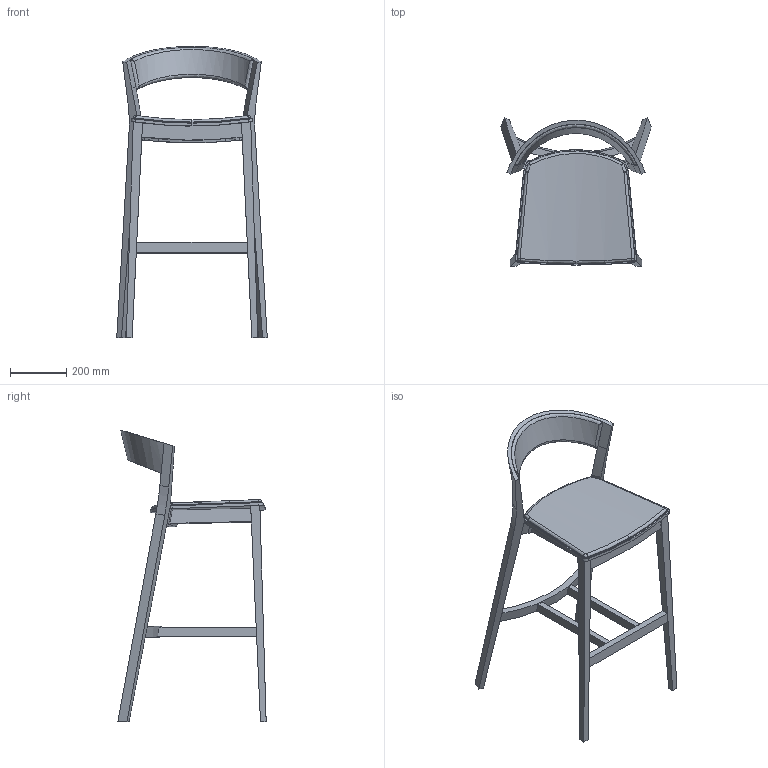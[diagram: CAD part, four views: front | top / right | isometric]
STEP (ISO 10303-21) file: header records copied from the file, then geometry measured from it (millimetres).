
FILE_DESCRIPTION(/* description */ (''),/* implementation_level */ '2;1');
FILE_NAME(/* name */ 'R:\_Rysunki inventor od 2015 - kompletne\4800_BST\bryły\Baza do pcon.stp',/* time_stamp */ '2023-03-22T14:43:04+01:00',/* author */ ('GG'),/* organization */ (''),/* preprocessor_version */ 'ST-DEVELOPER v19',/* originating_system */ 'Autodesk Inventor 2023',/* authorisation */ '');
FILE_SCHEMA (('AUTOMOTIVE_DESIGN { 1 0 10303 214 3 1 1 }'));
Length unit declared in the file: millimetre
Products named in the file (1): Baza do pcon
Bounding box: 535.89 x 528.12 x 1037.52 mm (x, y, z)
Volume: 10328043.8 mm3; surface area: 1586546.1 mm2
Topology: 3 solids, 3 shells, 152 faces, 394 edges, 240 vertices
Faces by surface type: bspline 80, plane 48, cylinder 24
Entity records: 7574 total; most frequent: CARTESIAN_POINT 4382, ORIENTED_EDGE 772, DIRECTION 453, EDGE_CURVE 386, VERTEX_POINT 240, AXIS2_PLACEMENT_3D 167, EDGE_LOOP 162, B_SPLINE_CURVE_WITH_KNOTS 161
